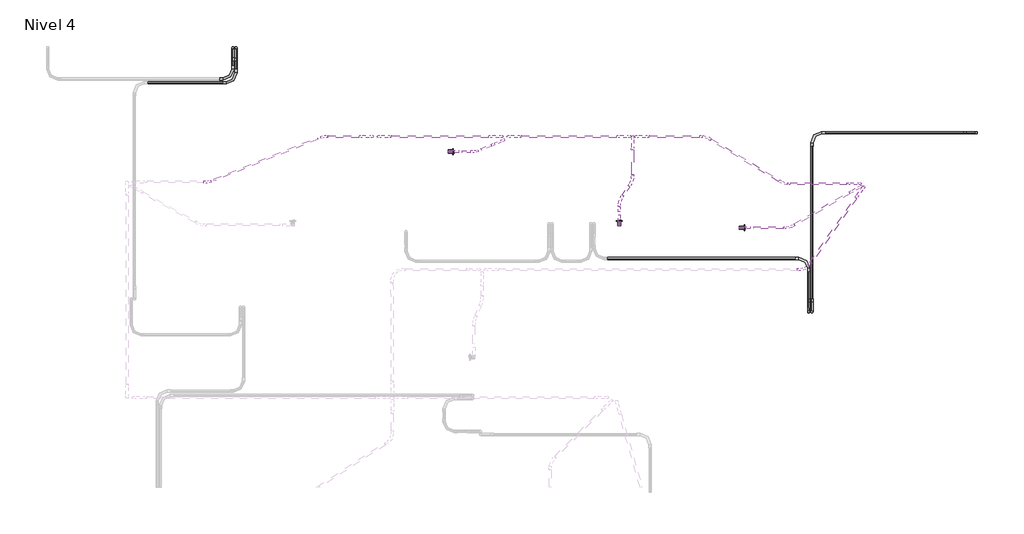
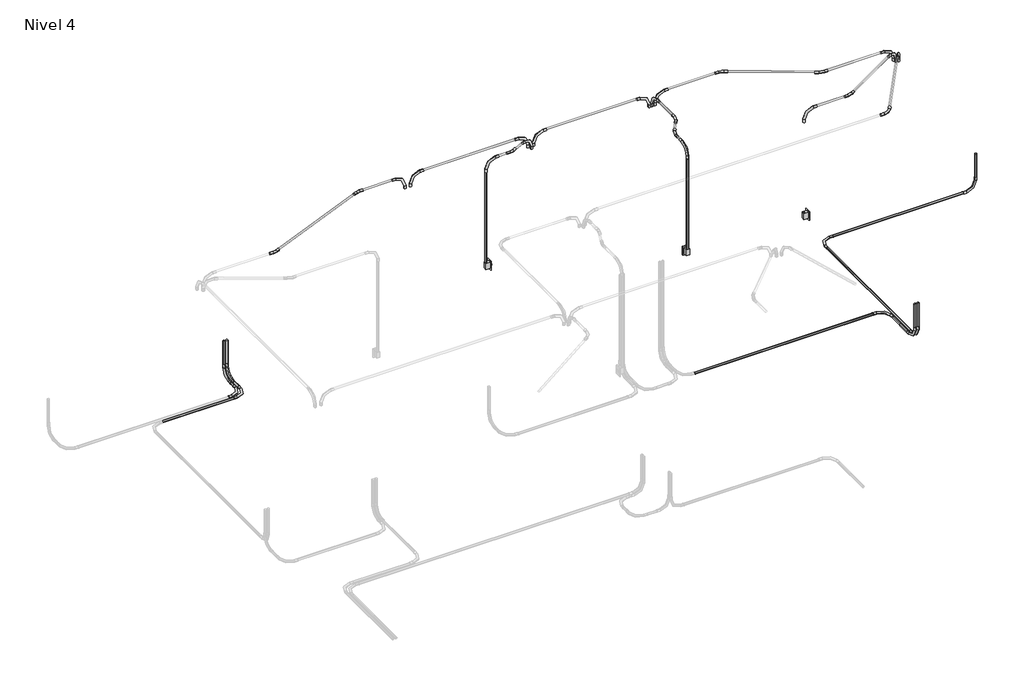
# One storey, part 9 of 9: 32 cable carrier fittings, 29 cable carrier segments, 3 switching devices.
"""IFC4 building model written with IfcOpenShell, lengths in millimetres."""

from ifc_helpers import new_model, si_unit, point, frame, frame_2d, origin, place, context, project, spatial, circle_curve, trimmed, segment, composite_curve, outline, extrude, transform, mapped, element, save
from components import m_codo_de_tubo_extremo_liso_pvc_9da73e12, m_codo_de_tubo_extremo_liso_pvc_102f0f41, m_codo_de_tubo_extremo_liso_pvc_83c0c0e9, m_codo_de_tubo_extremo_liso_pvc_1ce4db88, m_codo_de_tubo_extremo_liso_pvc_e924b1dc, m_codo_de_tubo_extremo_liso_pvc_b7793a26, m_codo_de_tubo_extremo_liso_pvc_59586aee, m_codo_de_tubo_extremo_liso_pvc_e6ab1ad8, switching_device_22fed34b

model = new_model("IFC4")

# Units and contexts
model_context = context("Model", 3, world=origin())
ifc_project = project(units=[si_unit("LENGTHUNIT", "METRE", prefix="MILLI")], contexts=[model_context])

# Site, building, storey
site = spatial("IfcSite", under=ifc_project)
building = spatial("IfcBuilding", under=site)
storey = spatial("IfcBuildingStorey", under=building, Name="Nivel 4", Elevation=8100.0)

# Cable carrier fittings
placement = place(None, origin())
m_codo_de_tubo_extremo_liso_pvc_shape = m_codo_de_tubo_extremo_liso_pvc_9da73e12(model_context)
element("IfcCableCarrierFitting", 1, ObjectType="M_Codo de tubo - Extremo liso - PVC : CODO POTENCIA", at=placement, inside=storey, context=model_context, shape_type="MappedRepresentation", body=[
    mapped(m_codo_de_tubo_extremo_liso_pvc_shape, transform((571.491666, 17544.6371118, 8030.0), x_axis=(0.0, 0.0, -1.0), y_axis=(0.0, -1.0, 0.0), z_axis=(-1.0, 0.0, 0.0))),
])
element("IfcCableCarrierFitting", 2, ObjectType="M_Codo de tubo - Extremo liso - PVC : CODO POTENCIA", at=placement, inside=storey, context=model_context, shape_type="MappedRepresentation", body=[
    mapped(m_codo_de_tubo_extremo_liso_pvc_shape, transform((607.5553057, 17544.6371118, 8030.0), x_axis=(0.0, 0.0, -1.0), y_axis=(0.0, -1.0, 0.0), z_axis=(-1.0, 0.0, 0.0))),
])
element("IfcCableCarrierFitting", 3, ObjectType="M_Codo de tubo - Extremo liso - PVC : CODO POTENCIA", at=placement, inside=storey, context=model_context, shape_type="MappedRepresentation", body=[
    mapped(m_codo_de_tubo_extremo_liso_pvc_shape, transform((9120.3628882, 16566.5645592, 8030.0), x_axis=(0.0, 0.0, -1.0), y_axis=(-1.0, 0.0, 0.0), z_axis=(0.0, 1.0, 0.0))),
])
element("IfcCableCarrierFitting", 4, ObjectType="M_Codo de tubo - Extremo liso - PVC : CODO POTENCIA", at=placement, inside=storey, context=model_context, shape_type="MappedRepresentation", body=[
    mapped(m_codo_de_tubo_extremo_liso_pvc_shape, transform((7193.2733803, 14505.3628882, 8030.0), x_axis=(0.0, 0.0, -1.0), y_axis=(0.0, 1.0, 0.0), z_axis=(1.0, 0.0, 0.0))),
])
element("IfcCableCarrierFitting", 5, ObjectType="M_Codo de tubo - Extremo liso - PVC : CODO POTENCIA", at=placement, inside=storey, context=model_context, shape_type="MappedRepresentation", body=[
    mapped(m_codo_de_tubo_extremo_liso_pvc_shape, transform((7229.33702, 16566.5645592, 8030.0), x_axis=(-1.0, 0.0, 0.0), y_axis=(0.0, -1.0, 0.0), z_axis=(0.0, 0.0, 1.0))),
])
element("IfcCableCarrierFitting", 6, ObjectType="M_Codo de tubo - Extremo liso - PVC : CODO POTENCIA", at=placement, inside=storey, context=model_context, shape_type="MappedRepresentation", body=[
    mapped(m_codo_de_tubo_extremo_liso_pvc_shape, transform((7229.33702, 14505.3628882, 8030.0), x_axis=(0.0, 0.0, -1.0), y_axis=(0.0, 1.0, 0.0), z_axis=(1.0, 0.0, 0.0))),
])
element("IfcCableCarrierFitting", 7, ObjectType="M_Codo de tubo - Extremo liso - PVC : CODO POTENCIA", at=placement, inside=storey, context=model_context, shape_type="MappedRepresentation", body=[
    mapped(m_codo_de_tubo_extremo_liso_pvc_shape, transform((7193.2733803, 15120.3628882, 8030.0), x_axis=(0.0, 1.0, 0.0), y_axis=(-1.0, 0.0, 0.0), z_axis=(0.0, 0.0, 1.0))),
])
element("IfcCableCarrierFitting", 8, ObjectType="M_Codo de tubo - Extremo liso - PVC : CODO POTENCIA", at=placement, inside=storey, context=model_context, shape_type="MappedRepresentation", body=[
    mapped(m_codo_de_tubo_extremo_liso_pvc_shape, transform((607.5553057, 17141.7513363, 8030.0), x_axis=(1.0, 0.0, 0.0), y_axis=(0.0, 1.0, 0.0), z_axis=(0.0, 0.0, 1.0))),
])
element("IfcCableCarrierFitting", 9, ObjectType="M_Codo de tubo - Extremo liso - PVC : CODO POTENCIA", at=placement, inside=storey, context=model_context, shape_type="MappedRepresentation", body=[
    mapped(m_codo_de_tubo_extremo_liso_pvc_shape, transform((571.491666, 17184.6371118, 8030.0), x_axis=(1.0, 0.0, 0.0), y_axis=(0.0, 1.0, 0.0), z_axis=(0.0, 0.0, 1.0))),
])
element("IfcCableCarrierFitting", 10, ObjectType="M_Codo de tubo - Extremo liso - PVC : CODO ILUMINACION", at=placement, inside=storey, context=model_context, shape_type="MappedRepresentation", body=[
    mapped(m_codo_de_tubo_extremo_liso_pvc_shape, transform((2241.7948591, 16522.4684793, 10650.0), x_axis=(-1.0, 0.0, 0.0), y_axis=(0.0, 0.0, -1.0), z_axis=(0.0, -1.0, 0.0))),
])
element("IfcCableCarrierFitting", 11, ObjectType="M_Codo de tubo - Extremo liso - PVC : CODO ILUMINACION", at=placement, inside=storey, context=model_context, shape_type="MappedRepresentation", body=[
    mapped(m_codo_de_tubo_extremo_liso_pvc_shape, transform((3734.0151305, 16522.4684793, 10650.0), x_axis=(-1.0, 0.0, 0.0), y_axis=(0.0, 0.0, -1.0), z_axis=(0.0, -1.0, 0.0))),
])
element("IfcCableCarrierFitting", 12, ObjectType="M_Codo de tubo - Extremo liso - PVC : CODO ILUMINACION", at=placement, inside=storey, context=model_context, shape_type="MappedRepresentation", body=[
    mapped(m_codo_de_tubo_extremo_liso_pvc_shape, transform((5204.7397254, 16522.4684793, 10650.0), x_axis=(-1.0, 0.0, 0.0), y_axis=(0.0, 0.0, -1.0), z_axis=(0.0, -1.0, 0.0))),
])
element("IfcCableCarrierFitting", 13, ObjectType="M_Codo de tubo - Extremo liso - PVC : CODO ILUMINACION", at=placement, inside=storey, context=model_context, shape_type="MappedRepresentation", body=[
    mapped(m_codo_de_tubo_extremo_liso_pvc_shape, transform((3056.7668084, 16349.9044993, 10650.0), x_axis=(0.0, 0.0, 1.0), y_axis=(1.0, 0.0, 0.0), z_axis=(0.0, 1.0, 0.0))),
])
element("IfcCableCarrierFitting", 14, ObjectType="M_Codo de tubo - Extremo liso - PVC : CODO ILUMINACION", at=placement, inside=storey, context=model_context, shape_type="MappedRepresentation", body=[
    mapped(m_codo_de_tubo_extremo_liso_pvc_shape, transform((5014.6923036, 15506.8611243, 10650.0), x_axis=(0.0, 0.0, 1.0), y_axis=(0.0, 1.0, 0.0), z_axis=(-1.0, 0.0, 0.0))),
])
element("IfcCableCarrierFitting", 15, ObjectType="M_Codo de tubo - Extremo liso - PVC : CODO ILUMINACION", at=placement, inside=storey, context=model_context, shape_type="MappedRepresentation", body=[
    mapped(m_codo_de_tubo_extremo_liso_pvc_shape, transform((6406.8611243, 15473.3236049, 10650.0), x_axis=(0.0, 0.0, 1.0), y_axis=(1.0, 0.0, 0.0), z_axis=(0.0, 1.0, 0.0))),
])
m_codo_de_tubo_extremo_liso_pvc_2_shape = m_codo_de_tubo_extremo_liso_pvc_102f0f41(model_context)
element("IfcCableCarrierFitting", 16, ObjectType="M_Codo de tubo - Extremo liso - PVC : CODO ILUMINACION", at=placement, inside=storey, context=model_context, shape_type="MappedRepresentation", body=[
    mapped(m_codo_de_tubo_extremo_liso_pvc_2_shape, transform((2173.7645981, 16522.4684793, 10650.0), x_axis=(1.0, 0.0, 0.0), y_axis=(0.0, 0.0, 1.0), z_axis=(0.0, -1.0, 0.0))),
])
element("IfcCableCarrierFitting", 17, ObjectType="M_Codo de tubo - Extremo liso - PVC : CODO ILUMINACION", at=placement, inside=storey, context=model_context, shape_type="MappedRepresentation", body=[
    mapped(m_codo_de_tubo_extremo_liso_pvc_2_shape, transform((3665.9848695, 16522.4684793, 10650.0), x_axis=(1.0, 0.0, 0.0), y_axis=(0.0, 0.0, 1.0), z_axis=(0.0, -1.0, 0.0))),
])
element("IfcCableCarrierFitting", 18, ObjectType="M_Codo de tubo - Extremo liso - PVC : CODO ILUMINACION", at=placement, inside=storey, context=model_context, shape_type="MappedRepresentation", body=[
    mapped(m_codo_de_tubo_extremo_liso_pvc_2_shape, transform((5136.7094645, 16522.4684793, 10650.0), x_axis=(1.0, 0.0, 0.0), y_axis=(0.0, 0.0, 1.0), z_axis=(0.0, -1.0, 0.0))),
])
element("IfcCableCarrierFitting", 19, ObjectType="M_Codo de tubo - Extremo liso - PVC : CODO ILUMINACION", at=placement, inside=storey, context=model_context, shape_type="MappedRepresentation", body=[
    mapped(m_codo_de_tubo_extremo_liso_pvc_2_shape, transform((7823.8636227, 15941.494093, 10650.0), x_axis=(0.5735764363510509, 0.8191520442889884, 0.0), y_axis=(0.0, 0.0, 1.0), z_axis=(0.8191520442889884, -0.5735764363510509, 0.0))),
])
element("IfcCableCarrierFitting", 20, ObjectType="M_Codo de tubo - Extremo liso - PVC : CODO ILUMINACION", at=placement, inside=storey, context=model_context, shape_type="MappedRepresentation", body=[
    mapped(m_codo_de_tubo_extremo_liso_pvc_2_shape, transform((7785.0139117, 15979.0288692, 10650.0), x_axis=(1.0, 0.0, 0.0), y_axis=(0.0, 0.0, 1.0), z_axis=(0.0, -1.0, 0.0))),
])
element("IfcCableCarrierFitting", 21, ObjectType="M_Codo de tubo - Extremo liso - PVC : CODO ILUMINACION", at=placement, inside=storey, context=model_context, shape_type="MappedRepresentation", body=[
    mapped(m_codo_de_tubo_extremo_liso_pvc_2_shape, transform((3684.8643971, 16483.326512, 10650.0), x_axis=(0.9205048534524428, 0.3907311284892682, 0.0), y_axis=(0.0, 0.0, 1.0000000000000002), z_axis=(0.3907311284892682, -0.9205048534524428, 0.0))),
])
element("IfcCableCarrierFitting", 22, ObjectType="M_Codo de tubo - Extremo liso - PVC : CODO ILUMINACION", at=placement, inside=storey, context=model_context, shape_type="MappedRepresentation", body=[
    mapped(m_codo_de_tubo_extremo_liso_pvc_2_shape, transform((5168.2792063, 16521.8599625, 10650.0), x_axis=(0.0, 1.0, 0.0), y_axis=(0.0, 0.0, 1.0), z_axis=(1.0, 0.0, 0.0))),
])
element("IfcCableCarrierFitting", 23, ObjectType="M_Codo de tubo - Extremo liso - PVC : CODO ILUMINACION", at=placement, inside=storey, context=model_context, shape_type="MappedRepresentation", body=[
    mapped(m_codo_de_tubo_extremo_liso_pvc_2_shape, transform((7797.1522648, 15952.0796933, 10650.0), x_axis=(0.8660254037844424, 0.4999999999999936, 0.0), y_axis=(0.0, 0.0, 1.0), z_axis=(0.4999999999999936, -0.8660254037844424, 0.0))),
])
m_codo_de_tubo_extremo_liso_pvc_3_shape = m_codo_de_tubo_extremo_liso_pvc_83c0c0e9(model_context)
element("IfcCableCarrierFitting", 24, ObjectType="M_Codo de tubo - Extremo liso - PVC : CODO ILUMINACION", at=placement, inside=storey, context=model_context, shape_type="MappedRepresentation", body=[
    mapped(m_codo_de_tubo_extremo_liso_pvc_3_shape, transform((297.9663114, 16001.2965089, 10650.0), x_axis=(1.0, 0.0, 0.0), y_axis=(0.0, 1.0, 0.0), z_axis=(0.0, 0.0, 1.0))),
])
element("IfcCableCarrierFitting", 25, ObjectType="M_Codo de tubo - Extremo liso - PVC : CODO ILUMINACION", at=placement, inside=storey, context=model_context, shape_type="MappedRepresentation", body=[
    mapped(m_codo_de_tubo_extremo_liso_pvc_3_shape, transform((1601.3645981, 16522.4684793, 10650.0), x_axis=(-1.0, 0.0, 0.0), y_axis=(0.0, -1.0, 0.0), z_axis=(0.0, 0.0, 1.0))),
])
m_codo_de_tubo_extremo_liso_pvc_4_shape = m_codo_de_tubo_extremo_liso_pvc_1ce4db88(model_context)
element("IfcCableCarrierFitting", 26, ObjectType="M_Codo de tubo - Extremo liso - PVC : CODO ILUMINACION", at=placement, inside=storey, context=model_context, shape_type="MappedRepresentation", body=[
    mapped(m_codo_de_tubo_extremo_liso_pvc_4_shape, transform((6008.1785187, 16522.4684793, 10650.0), x_axis=(-0.8571673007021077, 0.5150380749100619, 0.0), y_axis=(-0.5150380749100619, -0.8571673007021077, 0.0), z_axis=(0.0, 0.0, 1.0))),
])
element("IfcCableCarrierFitting", 27, ObjectType="M_Codo de tubo - Extremo liso - PVC : CODO ILUMINACION", at=placement, inside=storey, context=model_context, shape_type="MappedRepresentation", body=[
    mapped(m_codo_de_tubo_extremo_liso_pvc_4_shape, transform((6912.6139117, 15979.0288692, 10650.0), x_axis=(0.8571673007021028, -0.51503807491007, 0.0), y_axis=(0.51503807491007, 0.8571673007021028, 0.0), z_axis=(0.0, 0.0, 1.0))),
])
m_codo_de_tubo_extremo_liso_pvc_5_shape = m_codo_de_tubo_extremo_liso_pvc_e924b1dc(model_context)
element("IfcCableCarrierFitting", 28, ObjectType="M_Codo de tubo - Extremo liso - PVC : CODO ILUMINACION", at=placement, inside=storey, context=model_context, shape_type="MappedRepresentation", body=[
    mapped(m_codo_de_tubo_extremo_liso_pvc_5_shape, transform((7159.7702922, 14993.0705266, 10650.0), x_axis=(1.0, 0.0, 0.0), y_axis=(0.0, 1.0, 0.0), z_axis=(0.0, 0.0, 1.0))),
])
m_codo_de_tubo_extremo_liso_pvc_6_shape = m_codo_de_tubo_extremo_liso_pvc_b7793a26(model_context)
element("IfcCableCarrierFitting", 29, ObjectType="M_Codo de tubo - Extremo liso - PVC : CODO ILUMINACION", at=placement, inside=storey, context=model_context, shape_type="MappedRepresentation", body=[
    mapped(m_codo_de_tubo_extremo_liso_pvc_6_shape, transform((3370.5418327, 16349.9044993, 10650.0), x_axis=(1.0, 0.0, 0.0), y_axis=(0.0, 1.0, 0.0), z_axis=(0.0, 0.0, 1.0))),
])
m_codo_de_tubo_extremo_liso_pvc_7_shape = m_codo_de_tubo_extremo_liso_pvc_59586aee(model_context)
element("IfcCableCarrierFitting", 30, ObjectType="M_Codo de tubo - Extremo liso - PVC : CODO ILUMINACION", at=placement, inside=storey, context=model_context, shape_type="MappedRepresentation", body=[
    mapped(m_codo_de_tubo_extremo_liso_pvc_7_shape, transform((5168.2792063, 16009.4599625, 10650.0), x_axis=(0.5679095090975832, 0.823090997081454, 0.0), y_axis=(-0.823090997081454, 0.5679095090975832, 0.0), z_axis=(0.0, 0.0, 1.0))),
])
element("IfcCableCarrierFitting", 31, ObjectType="M_Codo de tubo - Extremo liso - PVC : CODO ILUMINACION", at=placement, inside=storey, context=model_context, shape_type="MappedRepresentation", body=[
    mapped(m_codo_de_tubo_extremo_liso_pvc_7_shape, transform((5014.6923036, 15786.8611243, 10650.0), x_axis=(-0.5679095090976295, -0.8230909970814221, 0.0), y_axis=(0.8230909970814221, -0.5679095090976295, 0.0), z_axis=(0.0, 0.0, 1.0))),
])
m_codo_de_tubo_extremo_liso_pvc_8_shape = m_codo_de_tubo_extremo_liso_pvc_e6ab1ad8(model_context)
element("IfcCableCarrierFitting", 32, ObjectType="M_Codo de tubo - Extremo liso - PVC : CODO ILUMINACION", at=placement, inside=storey, context=model_context, shape_type="MappedRepresentation", body=[
    mapped(m_codo_de_tubo_extremo_liso_pvc_8_shape, transform((6967.9223952, 15473.3236049, 10650.0), x_axis=(1.0, 0.0, 0.0), y_axis=(0.0, 1.0, 0.0), z_axis=(0.0, 0.0, 1.0))),
])

# Cable carrier segments
element("IfcCableCarrierSegment", 33, ObjectType="PVC-SEL, POTENCIA", at=placement, inside=storey, context=model_context, shape_type="SweptSolid", body=[
    extrude(outline(composite_curve([segment(trimmed(circle_curve(frame_2d((8030.0, 571.491666)), 11.71), [point((8030.0, 559.781666))], [point((8018.29, 571.491666))], False, "CARTESIAN"), True, "CONTINUOUS"), segment(trimmed(circle_curve(frame_2d((8030.0, 571.491666)), 11.71), [point((8018.29, 571.491666))], [point((8030.0, 583.201666))], False, "CARTESIAN"), True, "CONTINUOUS"), segment(trimmed(circle_curve(frame_2d((8030.0, 571.491666)), 11.71), [point((8030.0, 583.201666))], [point((8041.71, 571.491666))], False, "CARTESIAN"), True, "CONTINUOUS"), segment(trimmed(circle_curve(frame_2d((8030.0, 571.491666)), 11.71), [point((8041.71, 571.491666))], [point((8030.0, 559.781666))], False, "CARTESIAN"), True, "CONTINUOUS")], self_intersect=False)), frame((0.0, 17337.0371118, 0.0), z_axis=(0.0, 1.0, 0.0), x_axis=(0.0, 0.0, 1.0)), (0.0, 0.0, 1.0), 55.2),
])
element("IfcCableCarrierSegment", 34, ObjectType="PVC-SEL, POTENCIA", at=placement, inside=storey, context=model_context, shape_type="SweptSolid", body=[
    extrude(outline(composite_curve([segment(trimmed(circle_curve(frame_2d((571.491666, 17544.6371118)), 11.71), [point((583.201666, 17544.6371118))], [point((571.491666, 17532.9271118))], False, "CARTESIAN"), True, "CONTINUOUS"), segment(trimmed(circle_curve(frame_2d((571.491666, 17544.6371118)), 11.71), [point((571.491666, 17532.9271118))], [point((559.781666, 17544.6371118))], False, "CARTESIAN"), True, "CONTINUOUS"), segment(trimmed(circle_curve(frame_2d((571.491666, 17544.6371118)), 11.71), [point((559.781666, 17544.6371118))], [point((571.491666, 17556.3471118))], False, "CARTESIAN"), True, "CONTINUOUS"), segment(trimmed(circle_curve(frame_2d((571.491666, 17544.6371118)), 11.71), [point((571.491666, 17556.3471118))], [point((583.201666, 17544.6371118))], False, "CARTESIAN"), True, "CONTINUOUS")], self_intersect=False)), frame((0.0, 0.0, 8182.4), z_axis=(0.0, 0.0, 1.0), x_axis=(1.0, 0.0, 0.0)), (0.0, 0.0, 1.0), 297.3020537),
])
element("IfcCableCarrierSegment", 35, ObjectType="PVC-SEL, POTENCIA", at=placement, inside=storey, context=model_context, shape_type="SweptSolid", body=[
    extrude(outline(composite_curve([segment(trimmed(circle_curve(frame_2d((8030.0, 607.5553057)), 11.71), [point((8030.0, 595.8453057))], [point((8018.29, 607.5553057))], False, "CARTESIAN"), True, "CONTINUOUS"), segment(trimmed(circle_curve(frame_2d((8030.0, 607.5553057)), 11.71), [point((8018.29, 607.5553057))], [point((8030.0, 619.2653057))], False, "CARTESIAN"), True, "CONTINUOUS"), segment(trimmed(circle_curve(frame_2d((8030.0, 607.5553057)), 11.71), [point((8030.0, 619.2653057))], [point((8041.71, 607.5553057))], False, "CARTESIAN"), True, "CONTINUOUS"), segment(trimmed(circle_curve(frame_2d((8030.0, 607.5553057)), 11.71), [point((8041.71, 607.5553057))], [point((8030.0, 595.8453057))], False, "CARTESIAN"), True, "CONTINUOUS")], self_intersect=False)), frame((0.0, 17294.1513363, 0.0), z_axis=(0.0, 1.0, 0.0), x_axis=(0.0, 0.0, 1.0)), (0.0, 0.0, 1.0), 98.0857755),
])
element("IfcCableCarrierSegment", 36, ObjectType="PVC-SEL, POTENCIA", at=placement, inside=storey, context=model_context, shape_type="SweptSolid", body=[
    extrude(outline(composite_curve([segment(trimmed(circle_curve(frame_2d((607.5553057, 17544.6371118)), 11.71), [point((619.2653057, 17544.6371118))], [point((607.5553057, 17532.9271118))], False, "CARTESIAN"), True, "CONTINUOUS"), segment(trimmed(circle_curve(frame_2d((607.5553057, 17544.6371118)), 11.71), [point((607.5553057, 17532.9271118))], [point((595.8453057, 17544.6371118))], False, "CARTESIAN"), True, "CONTINUOUS"), segment(trimmed(circle_curve(frame_2d((607.5553057, 17544.6371118)), 11.71), [point((595.8453057, 17544.6371118))], [point((607.5553057, 17556.3471118))], False, "CARTESIAN"), True, "CONTINUOUS"), segment(trimmed(circle_curve(frame_2d((607.5553057, 17544.6371118)), 11.71), [point((607.5553057, 17556.3471118))], [point((619.2653057, 17544.6371118))], False, "CARTESIAN"), True, "CONTINUOUS")], self_intersect=False)), frame((0.0, 0.0, 8182.4), z_axis=(0.0, 0.0, 1.0), x_axis=(1.0, 0.0, 0.0)), (0.0, 0.0, 1.0), 297.3020537),
])
element("IfcCableCarrierSegment", 37, ObjectType="PVC-SEL, POTENCIA", at=placement, inside=storey, context=model_context, shape_type="SweptSolid", body=[
    extrude(outline(composite_curve([segment(trimmed(circle_curve(frame_2d((16566.5645592, 8030.0)), 11.71), [point((16578.2745592, 8030.0))], [point((16566.5645592, 8018.29))], False, "CARTESIAN"), True, "CONTINUOUS"), segment(trimmed(circle_curve(frame_2d((16566.5645592, 8030.0)), 11.71), [point((16566.5645592, 8018.29))], [point((16554.8545592, 8030.0))], False, "CARTESIAN"), True, "CONTINUOUS"), segment(trimmed(circle_curve(frame_2d((16566.5645592, 8030.0)), 11.71), [point((16554.8545592, 8030.0))], [point((16566.5645592, 8041.71))], False, "CARTESIAN"), True, "CONTINUOUS"), segment(trimmed(circle_curve(frame_2d((16566.5645592, 8030.0)), 11.71), [point((16566.5645592, 8041.71))], [point((16578.2745592, 8030.0))], False, "CARTESIAN"), True, "CONTINUOUS")], self_intersect=False)), frame((7381.73702, 0.0, 0.0), z_axis=(1.0, 0.0, 0.0), x_axis=(0.0, 1.0, 0.0)), (0.0, 0.0, 1.0), 1586.2258683),
])
element("IfcCableCarrierSegment", 38, ObjectType="PVC-SEL, POTENCIA", at=placement, inside=storey, context=model_context, shape_type="SweptSolid", body=[
    extrude(outline(composite_curve([segment(trimmed(circle_curve(frame_2d((9120.3628882, 16566.5645592)), 11.71), [point((9132.0728882, 16566.5645592))], [point((9120.3628882, 16554.8545592))], False, "CARTESIAN"), True, "CONTINUOUS"), segment(trimmed(circle_curve(frame_2d((9120.3628882, 16566.5645592)), 11.71), [point((9120.3628882, 16554.8545592))], [point((9108.6528882, 16566.5645592))], False, "CARTESIAN"), True, "CONTINUOUS"), segment(trimmed(circle_curve(frame_2d((9120.3628882, 16566.5645592)), 11.71), [point((9108.6528882, 16566.5645592))], [point((9120.3628882, 16578.2745592))], False, "CARTESIAN"), True, "CONTINUOUS"), segment(trimmed(circle_curve(frame_2d((9120.3628882, 16566.5645592)), 11.71), [point((9120.3628882, 16578.2745592))], [point((9132.0728882, 16566.5645592))], False, "CARTESIAN"), True, "CONTINUOUS")], self_intersect=False)), frame((0.0, 0.0, 8182.4), z_axis=(0.0, 0.0, 1.0), x_axis=(1.0, 0.0, 0.0)), (0.0, 0.0, 1.0), 297.3020537),
])
element("IfcCableCarrierSegment", 39, ObjectType="PVC-SEL, POTENCIA", at=placement, inside=storey, context=model_context, shape_type="SweptSolid", body=[
    extrude(outline(composite_curve([segment(trimmed(circle_curve(frame_2d((8030.0, 7193.2733803)), 11.71), [point((8030.0, 7204.9833803))], [point((8041.71, 7193.2733803))], False, "CARTESIAN"), True, "CONTINUOUS"), segment(trimmed(circle_curve(frame_2d((8030.0, 7193.2733803)), 11.71), [point((8041.71, 7193.2733803))], [point((8030.0, 7181.5633803))], False, "CARTESIAN"), True, "CONTINUOUS"), segment(trimmed(circle_curve(frame_2d((8030.0, 7193.2733803)), 11.71), [point((8030.0, 7181.5633803))], [point((8018.29, 7193.2733803))], False, "CARTESIAN"), True, "CONTINUOUS"), segment(trimmed(circle_curve(frame_2d((8030.0, 7193.2733803)), 11.71), [point((8018.29, 7193.2733803))], [point((8030.0, 7204.9833803))], False, "CARTESIAN"), True, "CONTINUOUS")], self_intersect=False)), frame((0.0, 14657.7628882, 0.0), z_axis=(0.0, 1.0, 0.0), x_axis=(0.0, 0.0, 1.0)), (0.0, 0.0, 1.0), 310.2),
])
element("IfcCableCarrierSegment", 40, ObjectType="PVC-SEL, POTENCIA", at=placement, inside=storey, context=model_context, shape_type="SweptSolid", body=[
    extrude(outline(composite_curve([segment(trimmed(circle_curve(frame_2d((7193.2733803, 14505.3628882)), 11.71), [point((7204.9833803, 14505.3628882))], [point((7193.2733803, 14493.6528882))], False, "CARTESIAN"), True, "CONTINUOUS"), segment(trimmed(circle_curve(frame_2d((7193.2733803, 14505.3628882)), 11.71), [point((7193.2733803, 14493.6528882))], [point((7181.5633803, 14505.3628882))], False, "CARTESIAN"), True, "CONTINUOUS"), segment(trimmed(circle_curve(frame_2d((7193.2733803, 14505.3628882)), 11.71), [point((7181.5633803, 14505.3628882))], [point((7193.2733803, 14517.0728882))], False, "CARTESIAN"), True, "CONTINUOUS"), segment(trimmed(circle_curve(frame_2d((7193.2733803, 14505.3628882)), 11.71), [point((7193.2733803, 14517.0728882))], [point((7204.9833803, 14505.3628882))], False, "CARTESIAN"), True, "CONTINUOUS")], self_intersect=False)), frame((0.0, 0.0, 8182.4), z_axis=(0.0, 0.0, 1.0), x_axis=(1.0, 0.0, 0.0)), (0.0, 0.0, 1.0), 297.3020537),
])
element("IfcCableCarrierSegment", 41, ObjectType="PVC-SEL, POTENCIA", at=placement, inside=storey, context=model_context, shape_type="SweptSolid", body=[
    extrude(outline(composite_curve([segment(trimmed(circle_curve(frame_2d((8030.0, 7229.33702)), 11.71), [point((8030.0, 7217.62702))], [point((8018.29, 7229.33702))], False, "CARTESIAN"), True, "CONTINUOUS"), segment(trimmed(circle_curve(frame_2d((8030.0, 7229.33702)), 11.71), [point((8018.29, 7229.33702))], [point((8030.0, 7241.04702))], False, "CARTESIAN"), True, "CONTINUOUS"), segment(trimmed(circle_curve(frame_2d((8030.0, 7229.33702)), 11.71), [point((8030.0, 7241.04702))], [point((8041.71, 7229.33702))], False, "CARTESIAN"), True, "CONTINUOUS"), segment(trimmed(circle_curve(frame_2d((8030.0, 7229.33702)), 11.71), [point((8041.71, 7229.33702))], [point((8030.0, 7217.62702))], False, "CARTESIAN"), True, "CONTINUOUS")], self_intersect=False)), frame((0.0, 14657.7628882, 0.0), z_axis=(0.0, 1.0, 0.0), x_axis=(0.0, 0.0, 1.0)), (0.0, 0.0, 1.0), 1756.401671),
])
element("IfcCableCarrierSegment", 42, ObjectType="PVC-SEL, POTENCIA", at=placement, inside=storey, context=model_context, shape_type="SweptSolid", body=[
    extrude(outline(composite_curve([segment(trimmed(circle_curve(frame_2d((7229.33702, 14505.3628882)), 11.71), [point((7241.04702, 14505.3628882))], [point((7229.33702, 14493.6528882))], False, "CARTESIAN"), True, "CONTINUOUS"), segment(trimmed(circle_curve(frame_2d((7229.33702, 14505.3628882)), 11.71), [point((7229.33702, 14493.6528882))], [point((7217.62702, 14505.3628882))], False, "CARTESIAN"), True, "CONTINUOUS"), segment(trimmed(circle_curve(frame_2d((7229.33702, 14505.3628882)), 11.71), [point((7217.62702, 14505.3628882))], [point((7229.33702, 14517.0728882))], False, "CARTESIAN"), True, "CONTINUOUS"), segment(trimmed(circle_curve(frame_2d((7229.33702, 14505.3628882)), 11.71), [point((7229.33702, 14517.0728882))], [point((7241.04702, 14505.3628882))], False, "CARTESIAN"), True, "CONTINUOUS")], self_intersect=False)), frame((0.0, 0.0, 8182.4), z_axis=(0.0, 0.0, 1.0), x_axis=(1.0, 0.0, 0.0)), (0.0, 0.0, 1.0), 297.3020537),
])
element("IfcCableCarrierSegment", 43, ObjectType="PVC-SEL, POTENCIA", at=placement, inside=storey, context=model_context, shape_type="SweptSolid", body=[
    extrude(outline(composite_curve([segment(trimmed(circle_curve(frame_2d((15120.3628882, 8030.0)), 11.71), [point((15132.0728882, 8030.0))], [point((15120.3628882, 8018.29))], False, "CARTESIAN"), True, "CONTINUOUS"), segment(trimmed(circle_curve(frame_2d((15120.3628882, 8030.0)), 11.71), [point((15120.3628882, 8018.29))], [point((15108.6528882, 8030.0))], False, "CARTESIAN"), True, "CONTINUOUS"), segment(trimmed(circle_curve(frame_2d((15120.3628882, 8030.0)), 11.71), [point((15108.6528882, 8030.0))], [point((15120.3628882, 8041.71))], False, "CARTESIAN"), True, "CONTINUOUS"), segment(trimmed(circle_curve(frame_2d((15120.3628882, 8030.0)), 11.71), [point((15120.3628882, 8041.71))], [point((15132.0728882, 8030.0))], False, "CARTESIAN"), True, "CONTINUOUS")], self_intersect=False)), frame((4875.3493809, 0.0, 0.0), z_axis=(1.0, 0.0, 0.0), x_axis=(0.0, 1.0, 0.0)), (0.0, 0.0, 1.0), 2165.5239995),
])
element("IfcCableCarrierSegment", 44, ObjectType="PVC-SEL, POTENCIA", at=placement, inside=storey, context=model_context, shape_type="SweptSolid", body=[
    extrude(outline(composite_curve([segment(trimmed(circle_curve(frame_2d((17141.7513363, 8030.0)), 11.71), [point((17153.4613363, 8030.0))], [point((17141.7513363, 8018.29))], False, "CARTESIAN"), True, "CONTINUOUS"), segment(trimmed(circle_curve(frame_2d((17141.7513363, 8030.0)), 11.71), [point((17141.7513363, 8018.29))], [point((17130.0413363, 8030.0))], False, "CARTESIAN"), True, "CONTINUOUS"), segment(trimmed(circle_curve(frame_2d((17141.7513363, 8030.0)), 11.71), [point((17130.0413363, 8030.0))], [point((17141.7513363, 8041.71))], False, "CARTESIAN"), True, "CONTINUOUS"), segment(trimmed(circle_curve(frame_2d((17141.7513363, 8030.0)), 11.71), [point((17141.7513363, 8041.71))], [point((17153.4613363, 8030.0))], False, "CARTESIAN"), True, "CONTINUOUS")], self_intersect=False)), frame((-409.6660348, 0.0, 0.0), z_axis=(1.0, 0.0, 0.0), x_axis=(0.0, 1.0, 0.0)), (0.0, 0.0, 1.0), 864.8213404),
])
element("IfcCableCarrierSegment", 45, ObjectType="PVC-SEL ILUMINACION", at=placement, inside=storey, context=model_context, shape_type="SweptSolid", body=[
    extrude(outline(composite_curve([segment(trimmed(circle_curve(frame_2d((16522.4684793, 10650.0)), 11.71), [point((16534.1784793, 10650.0))], [point((16522.4684793, 10638.29))], False, "CARTESIAN"), True, "CONTINUOUS"), segment(trimmed(circle_curve(frame_2d((16522.4684793, 10650.0)), 11.71), [point((16522.4684793, 10638.29))], [point((16510.7584793, 10650.0))], False, "CARTESIAN"), True, "CONTINUOUS"), segment(trimmed(circle_curve(frame_2d((16522.4684793, 10650.0)), 11.71), [point((16510.7584793, 10650.0))], [point((16522.4684793, 10661.71))], False, "CARTESIAN"), True, "CONTINUOUS"), segment(trimmed(circle_curve(frame_2d((16522.4684793, 10650.0)), 11.71), [point((16522.4684793, 10661.71))], [point((16534.1784793, 10650.0))], False, "CARTESIAN"), True, "CONTINUOUS")], self_intersect=False)), frame((1661.4694225, 0.0, 0.0), z_axis=(1.0, 0.0, 0.0), x_axis=(0.0, 1.0, 0.0)), (0.0, 0.0, 1.0), 359.8951756),
])
element("IfcCableCarrierSegment", 46, ObjectType="PVC-SEL ILUMINACION", at=placement, inside=storey, context=model_context, shape_type="SweptSolid", body=[
    extrude(outline(composite_curve([segment(trimmed(circle_curve(frame_2d((0.0, 11.71)), 11.71), [point((11.71, 11.71))], [point((0.0, 0.0))], False, "CARTESIAN"), True, "CONTINUOUS"), segment(trimmed(circle_curve(frame_2d((0.0, 11.71)), 11.71), [point((0.0, 0.0))], [point((-11.71, 11.71))], False, "CARTESIAN"), True, "CONTINUOUS"), segment(trimmed(circle_curve(frame_2d((0.0, 11.71)), 11.71), [point((-11.71, 11.71))], [point((0.0, 23.42))], False, "CARTESIAN"), True, "CONTINUOUS"), segment(trimmed(circle_curve(frame_2d((0.0, 11.71)), 11.71), [point((0.0, 23.42))], [point((11.71, 11.71))], False, "CARTESIAN"), True, "CONTINUOUS")], self_intersect=False)), frame((353.7750055, 16023.6119649, 10661.71), z_axis=(0.9285227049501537, 0.37127562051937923, 0.0), x_axis=(0.37127562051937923, -0.9285227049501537, 0.0)), (0.0, 0.0, 1.0), 1283.5237008),
])
element("IfcCableCarrierSegment", 47, ObjectType="PVC-SEL ILUMINACION", at=placement, inside=storey, context=model_context, shape_type="SweptSolid", body=[
    extrude(outline(composite_curve([segment(trimmed(circle_curve(frame_2d((0.0, 11.71)), 11.71), [point((11.7099999, 11.71))], [point((0.0, 0.0))], False, "CARTESIAN"), True, "CONTINUOUS"), segment(trimmed(circle_curve(frame_2d((0.0, 11.71)), 11.71), [point((0.0, 0.0))], [point((-11.7100001, 11.71))], False, "CARTESIAN"), True, "CONTINUOUS"), segment(trimmed(circle_curve(frame_2d((0.0, 11.71)), 11.71), [point((-11.7100001, 11.71))], [point((0.0, 23.42))], False, "CARTESIAN"), True, "CONTINUOUS"), segment(trimmed(circle_curve(frame_2d((0.0, 11.71)), 11.71), [point((0.0, 23.42))], [point((11.7099999, 11.71))], False, "CARTESIAN"), True, "CONTINUOUS")], self_intersect=False)), frame((7215.7518192, 15073.0204328, 10661.71), z_axis=(0.5735764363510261, 0.8191520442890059, 0.0), x_axis=(0.8191520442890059, -0.5735764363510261, 0.0)), (0.0, 0.0, 1.0), 907.8105753),
])
element("IfcCableCarrierSegment", 48, ObjectType="PVC-SEL ILUMINACION", at=placement, inside=storey, context=model_context, shape_type="SweptSolid", body=[
    extrude(outline(composite_curve([segment(trimmed(circle_curve(frame_2d((15979.0288692, 10650.0)), 11.71), [point((15990.7388692, 10650.0))], [point((15979.0288692, 10638.29))], False, "CARTESIAN"), True, "CONTINUOUS"), segment(trimmed(circle_curve(frame_2d((15979.0288692, 10650.0)), 11.71), [point((15979.0288692, 10638.29))], [point((15967.3188692, 10650.0))], False, "CARTESIAN"), True, "CONTINUOUS"), segment(trimmed(circle_curve(frame_2d((15979.0288692, 10650.0)), 11.71), [point((15967.3188692, 10650.0))], [point((15979.0288692, 10661.71))], False, "CARTESIAN"), True, "CONTINUOUS"), segment(trimmed(circle_curve(frame_2d((15979.0288692, 10650.0)), 11.71), [point((15979.0288692, 10661.71))], [point((15990.7388692, 10650.0))], False, "CARTESIAN"), True, "CONTINUOUS")], self_intersect=False)), frame((6982.4121071, 0.0, 0.0), z_axis=(1.0, 0.0, 0.0), x_axis=(0.0, 1.0, 0.0)), (0.0, 0.0, 1.0), 650.2018046),
])
element("IfcCableCarrierSegment", 49, ObjectType="PVC-SEL ILUMINACION", at=placement, inside=storey, context=model_context, shape_type="SweptSolid", body=[
    extrude(outline(composite_curve([segment(trimmed(circle_curve(frame_2d((0.0, -11.71)), 11.71), [point((-11.71, -11.71))], [point((0.0, 0.0))], False, "CARTESIAN"), True, "CONTINUOUS"), segment(trimmed(circle_curve(frame_2d((0.0, -11.71)), 11.71), [point((0.0, 0.0))], [point((11.71, -11.71))], False, "CARTESIAN"), True, "CONTINUOUS"), segment(trimmed(circle_curve(frame_2d((0.0, -11.71)), 11.71), [point((11.71, -11.71))], [point((0.0, -23.42))], False, "CARTESIAN"), True, "CONTINUOUS"), segment(trimmed(circle_curve(frame_2d((0.0, -11.71)), 11.71), [point((0.0, -23.42))], [point((-11.71, -11.71))], False, "CARTESIAN"), True, "CONTINUOUS")], self_intersect=False)), frame((6852.7851809, 16014.9775974, 10638.29), z_axis=(-0.8571673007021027, 0.5150380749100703, 0.0), x_axis=(0.5150380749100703, 0.8571673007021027, 0.0)), (0.0, 0.0, 1.0), 915.5481443),
])
element("IfcCableCarrierSegment", 50, ObjectType="PVC-SEL ILUMINACION", at=placement, inside=storey, context=model_context, shape_type="SweptSolid", body=[
    extrude(outline(composite_curve([segment(trimmed(circle_curve(frame_2d((16522.4684793, 10650.0)), 11.71), [point((16510.7584793, 10650.0))], [point((16522.4684793, 10661.71))], False, "CARTESIAN"), True, "CONTINUOUS"), segment(trimmed(circle_curve(frame_2d((16522.4684793, 10650.0)), 11.71), [point((16522.4684793, 10661.71))], [point((16534.1784793, 10650.0))], False, "CARTESIAN"), True, "CONTINUOUS"), segment(trimmed(circle_curve(frame_2d((16522.4684793, 10650.0)), 11.71), [point((16534.1784793, 10650.0))], [point((16522.4684793, 10638.29))], False, "CARTESIAN"), True, "CONTINUOUS"), segment(trimmed(circle_curve(frame_2d((16522.4684793, 10650.0)), 11.71), [point((16522.4684793, 10638.29))], [point((16510.7584793, 10650.0))], False, "CARTESIAN"), True, "CONTINUOUS")], self_intersect=False)), frame((5357.1397254, 0.0, 0.0), z_axis=(1.0, 0.0, 0.0), x_axis=(0.0, 1.0, 0.0)), (0.0, 0.0, 1.0), 581.2405979),
])
element("IfcCableCarrierSegment", 51, ObjectType="PVC-SEL ILUMINACION", at=placement, inside=storey, context=model_context, shape_type="SweptSolid", body=[
    extrude(outline(composite_curve([segment(trimmed(circle_curve(frame_2d((16522.4684793, 10650.0)), 11.71), [point((16534.1784793, 10650.0))], [point((16522.4684793, 10638.29))], False, "CARTESIAN"), True, "CONTINUOUS"), segment(trimmed(circle_curve(frame_2d((16522.4684793, 10650.0)), 11.71), [point((16522.4684793, 10638.29))], [point((16510.7584793, 10650.0))], False, "CARTESIAN"), True, "CONTINUOUS"), segment(trimmed(circle_curve(frame_2d((16522.4684793, 10650.0)), 11.71), [point((16510.7584793, 10650.0))], [point((16522.4684793, 10661.71))], False, "CARTESIAN"), True, "CONTINUOUS"), segment(trimmed(circle_curve(frame_2d((16522.4684793, 10650.0)), 11.71), [point((16522.4684793, 10661.71))], [point((16534.1784793, 10650.0))], False, "CARTESIAN"), True, "CONTINUOUS")], self_intersect=False)), frame((3886.4151305, 0.0, 0.0), z_axis=(1.0, 0.0, 0.0), x_axis=(0.0, 1.0, 0.0)), (0.0, 0.0, 1.0), 1097.894334),
])
element("IfcCableCarrierSegment", 52, ObjectType="PVC-SEL ILUMINACION", at=placement, inside=storey, context=model_context, shape_type="SweptSolid", body=[
    extrude(outline(composite_curve([segment(trimmed(circle_curve(frame_2d((16522.4684793, 10650.0)), 11.71), [point((16510.7584793, 10650.0))], [point((16522.4684793, 10661.71))], False, "CARTESIAN"), True, "CONTINUOUS"), segment(trimmed(circle_curve(frame_2d((16522.4684793, 10650.0)), 11.71), [point((16522.4684793, 10661.71))], [point((16534.1784793, 10650.0))], False, "CARTESIAN"), True, "CONTINUOUS"), segment(trimmed(circle_curve(frame_2d((16522.4684793, 10650.0)), 11.71), [point((16534.1784793, 10650.0))], [point((16522.4684793, 10638.29))], False, "CARTESIAN"), True, "CONTINUOUS"), segment(trimmed(circle_curve(frame_2d((16522.4684793, 10650.0)), 11.71), [point((16522.4684793, 10638.29))], [point((16510.7584793, 10650.0))], False, "CARTESIAN"), True, "CONTINUOUS")], self_intersect=False)), frame((2394.1948591, 0.0, 0.0), z_axis=(1.0, 0.0, 0.0), x_axis=(0.0, 1.0, 0.0)), (0.0, 0.0, 1.0), 1119.3900104),
])
element("IfcCableCarrierSegment", 53, ObjectType="PVC-SEL ILUMINACION", at=placement, inside=storey, context=model_context, shape_type="SweptSolid", body=[
    extrude(outline(composite_curve([segment(trimmed(circle_curve(frame_2d((0.0, -11.71)), 11.71), [point((-11.7100001, -11.71))], [point((0.0, 0.0))], False, "CARTESIAN"), True, "CONTINUOUS"), segment(trimmed(circle_curve(frame_2d((0.0, -11.71)), 11.71), [point((0.0, 0.0))], [point((11.71, -11.71))], False, "CARTESIAN"), True, "CONTINUOUS"), segment(trimmed(circle_curve(frame_2d((0.0, -11.71)), 11.71), [point((11.71, -11.71))], [point((0.0, -23.42))], False, "CARTESIAN"), True, "CONTINUOUS"), segment(trimmed(circle_curve(frame_2d((0.0, -11.71)), 11.71), [point((0.0, -23.42))], [point((-11.7100001, -11.71))], False, "CARTESIAN"), True, "CONTINUOUS")], self_intersect=False)), frame((3427.0190377, 16373.8776505, 10638.29), z_axis=(0.920504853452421, 0.39073112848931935, 0.0), x_axis=(0.39073112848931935, -0.920504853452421, 0.0)), (0.0, 0.0, 1.0), 127.7129819),
])
element("IfcCableCarrierSegment", 54, ObjectType="PVC-SEL ILUMINACION", at=placement, inside=storey, context=model_context, shape_type="SweptSolid", body=[
    extrude(outline(composite_curve([segment(trimmed(circle_curve(frame_2d((16349.9044993, 10650.0)), 11.71), [point((16361.6144993, 10650.0))], [point((16349.9044993, 10638.29))], False, "CARTESIAN"), True, "CONTINUOUS"), segment(trimmed(circle_curve(frame_2d((16349.9044993, 10650.0)), 11.71), [point((16349.9044993, 10638.29))], [point((16338.1944993, 10650.0))], False, "CARTESIAN"), True, "CONTINUOUS"), segment(trimmed(circle_curve(frame_2d((16349.9044993, 10650.0)), 11.71), [point((16338.1944993, 10650.0))], [point((16349.9044993, 10661.71))], False, "CARTESIAN"), True, "CONTINUOUS"), segment(trimmed(circle_curve(frame_2d((16349.9044993, 10650.0)), 11.71), [point((16349.9044993, 10661.71))], [point((16361.6144993, 10650.0))], False, "CARTESIAN"), True, "CONTINUOUS")], self_intersect=False)), frame((3209.1668084, 0.0, 0.0), z_axis=(1.0, 0.0, 0.0), x_axis=(0.0, 1.0, 0.0)), (0.0, 0.0, 1.0), 100.0204265),
])
element("IfcCableCarrierSegment", 55, ObjectType="PVC-SEL ILUMINACION", at=placement, inside=storey, context=model_context, shape_type="SweptSolid", body=[
    extrude(outline(composite_curve([segment(trimmed(circle_curve(frame_2d((3056.7668084, 16349.9044993)), 11.71), [point((3045.0568084, 16349.9044993))], [point((3056.7668084, 16361.6144993))], False, "CARTESIAN"), True, "CONTINUOUS"), segment(trimmed(circle_curve(frame_2d((3056.7668084, 16349.9044993)), 11.71), [point((3056.7668084, 16361.6144993))], [point((3068.4768084, 16349.9044993))], False, "CARTESIAN"), True, "CONTINUOUS"), segment(trimmed(circle_curve(frame_2d((3056.7668084, 16349.9044993)), 11.71), [point((3068.4768084, 16349.9044993))], [point((3056.7668084, 16338.1944993))], False, "CARTESIAN"), True, "CONTINUOUS"), segment(trimmed(circle_curve(frame_2d((3056.7668084, 16349.9044993)), 11.71), [point((3056.7668084, 16338.1944993))], [point((3045.0568084, 16349.9044993))], False, "CARTESIAN"), True, "CONTINUOUS")], self_intersect=False)), frame((0.0, 0.0, 9340.2227463), z_axis=(0.0, 0.0, 1.0), x_axis=(1.0, 0.0, 0.0)), (0.0, 0.0, 1.0), 1157.3772537),
])
element("IfcCableCarrierSegment", 56, ObjectType="PVC-SEL ILUMINACION", at=placement, inside=storey, context=model_context, shape_type="SweptSolid", body=[
    extrude(outline(composite_curve([segment(trimmed(circle_curve(frame_2d((10650.0, 5168.2792063)), 11.71), [point((10650.0, 5156.5692063))], [point((10638.29, 5168.2792063))], False, "CARTESIAN"), True, "CONTINUOUS"), segment(trimmed(circle_curve(frame_2d((10650.0, 5168.2792063)), 11.71), [point((10638.29, 5168.2792063))], [point((10650.0, 5179.9892063))], False, "CARTESIAN"), True, "CONTINUOUS"), segment(trimmed(circle_curve(frame_2d((10650.0, 5168.2792063)), 11.71), [point((10650.0, 5179.9892063))], [point((10661.71, 5168.2792063))], False, "CARTESIAN"), True, "CONTINUOUS"), segment(trimmed(circle_curve(frame_2d((10650.0, 5168.2792063)), 11.71), [point((10661.71, 5168.2792063))], [point((10650.0, 5156.5692063))], False, "CARTESIAN"), True, "CONTINUOUS")], self_intersect=False)), frame((0.0, 16083.1654572, 0.0), z_axis=(0.0, 1.0, 0.0), x_axis=(0.0, 0.0, 1.0)), (0.0, 0.0, 1.0), 286.2945053),
])
element("IfcCableCarrierSegment", 57, ObjectType="PVC-SEL ILUMINACION", at=placement, inside=storey, context=model_context, shape_type="SweptSolid", body=[
    extrude(outline(composite_curve([segment(trimmed(circle_curve(frame_2d((10650.0, 5014.6923036)), 11.71), [point((10650.0, 5026.4023036))], [point((10661.71, 5014.6923036))], False, "CARTESIAN"), True, "CONTINUOUS"), segment(trimmed(circle_curve(frame_2d((10650.0, 5014.6923036)), 11.71), [point((10661.71, 5014.6923036))], [point((10650.0, 5002.9823036))], False, "CARTESIAN"), True, "CONTINUOUS"), segment(trimmed(circle_curve(frame_2d((10650.0, 5014.6923036)), 11.71), [point((10650.0, 5002.9823036))], [point((10638.29, 5014.6923036))], False, "CARTESIAN"), True, "CONTINUOUS"), segment(trimmed(circle_curve(frame_2d((10650.0, 5014.6923036)), 11.71), [point((10638.29, 5014.6923036))], [point((10650.0, 5026.4023036))], False, "CARTESIAN"), True, "CONTINUOUS")], self_intersect=False)), frame((0.0, 15659.2611243, 0.0), z_axis=(0.0, 1.0, 0.0), x_axis=(0.0, 0.0, 1.0)), (0.0, 0.0, 1.0), 53.8945053),
])
element("IfcCableCarrierSegment", 58, ObjectType="PVC-SEL ILUMINACION", at=placement, inside=storey, context=model_context, shape_type="SweptSolid", body=[
    extrude(outline(composite_curve([segment(trimmed(circle_curve(frame_2d((5014.6923036, 15506.8611243)), 11.71), [point((5002.9823036, 15506.8611243))], [point((5014.6923036, 15518.5711243))], False, "CARTESIAN"), True, "CONTINUOUS"), segment(trimmed(circle_curve(frame_2d((5014.6923036, 15506.8611243)), 11.71), [point((5014.6923036, 15518.5711243))], [point((5026.4023036, 15506.8611243))], False, "CARTESIAN"), True, "CONTINUOUS"), segment(trimmed(circle_curve(frame_2d((5014.6923036, 15506.8611243)), 11.71), [point((5026.4023036, 15506.8611243))], [point((5014.6923036, 15495.1511243))], False, "CARTESIAN"), True, "CONTINUOUS"), segment(trimmed(circle_curve(frame_2d((5014.6923036, 15506.8611243)), 11.71), [point((5014.6923036, 15495.1511243))], [point((5002.9823036, 15506.8611243))], False, "CARTESIAN"), True, "CONTINUOUS")], self_intersect=False)), frame((0.0, 0.0, 9340.2227463), z_axis=(0.0, 0.0, 1.0), x_axis=(1.0, 0.0, 0.0)), (0.0, 0.0, 1.0), 1157.3772537),
])
element("IfcCableCarrierSegment", 59, ObjectType="PVC-SEL ILUMINACION", at=placement, inside=storey, context=model_context, shape_type="SweptSolid", body=[
    extrude(outline(composite_curve([segment(trimmed(circle_curve(frame_2d((0.0, -11.71)), 11.71), [point((-11.71, -11.71))], [point((0.0, 0.0))], False, "CARTESIAN"), True, "CONTINUOUS"), segment(trimmed(circle_curve(frame_2d((0.0, -11.71)), 11.71), [point((0.0, 0.0))], [point((11.71, -11.71))], False, "CARTESIAN"), True, "CONTINUOUS"), segment(trimmed(circle_curve(frame_2d((0.0, -11.71)), 11.71), [point((11.71, -11.71))], [point((0.0, -23.42))], False, "CARTESIAN"), True, "CONTINUOUS"), segment(trimmed(circle_curve(frame_2d((0.0, -11.71)), 11.71), [point((0.0, -23.42))], [point((-11.71, -11.71))], False, "CARTESIAN"), True, "CONTINUOUS")], self_intersect=False)), frame((5056.5503549, 15847.5274535, 10638.29), z_axis=(0.5679095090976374, 0.8230909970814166, 0.0), x_axis=(0.8230909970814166, -0.5679095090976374, 0.0)), (0.0, 0.0, 1.0), 123.0315727),
])
element("IfcCableCarrierSegment", 60, ObjectType="PVC-SEL ILUMINACION", at=placement, inside=storey, context=model_context, shape_type="SweptSolid", body=[
    extrude(outline(composite_curve([segment(trimmed(circle_curve(frame_2d((0.0, -11.71)), 11.71), [point((-11.71, -11.71))], [point((0.0, 0.0))], False, "CARTESIAN"), True, "CONTINUOUS"), segment(trimmed(circle_curve(frame_2d((0.0, -11.71)), 11.71), [point((0.0, 0.0))], [point((11.71, -11.71))], False, "CARTESIAN"), True, "CONTINUOUS"), segment(trimmed(circle_curve(frame_2d((0.0, -11.71)), 11.71), [point((11.71, -11.71))], [point((0.0, -23.42))], False, "CARTESIAN"), True, "CONTINUOUS"), segment(trimmed(circle_curve(frame_2d((0.0, -11.71)), 11.71), [point((0.0, -23.42))], [point((-11.71, -11.71))], False, "CARTESIAN"), True, "CONTINUOUS")], self_intersect=False)), frame((7027.4413704, 15507.6869012, 10638.29), z_axis=(0.8660254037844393, 0.499999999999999, 0.0), x_axis=(0.499999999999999, -0.8660254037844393, 0.0)), (0.0, 0.0, 1.0), 736.3855842),
])
element("IfcCableCarrierSegment", 61, ObjectType="PVC-SEL ILUMINACION", at=placement, inside=storey, context=model_context, shape_type="SweptSolid", body=[
    extrude(outline(composite_curve([segment(trimmed(circle_curve(frame_2d((15473.3236049, 10650.0)), 11.71), [point((15485.0336049, 10650.0))], [point((15473.3236049, 10638.29))], False, "CARTESIAN"), True, "CONTINUOUS"), segment(trimmed(circle_curve(frame_2d((15473.3236049, 10650.0)), 11.71), [point((15473.3236049, 10638.29))], [point((15461.6136049, 10650.0))], False, "CARTESIAN"), True, "CONTINUOUS"), segment(trimmed(circle_curve(frame_2d((15473.3236049, 10650.0)), 11.71), [point((15461.6136049, 10650.0))], [point((15473.3236049, 10661.71))], False, "CARTESIAN"), True, "CONTINUOUS"), segment(trimmed(circle_curve(frame_2d((15473.3236049, 10650.0)), 11.71), [point((15473.3236049, 10661.71))], [point((15485.0336049, 10650.0))], False, "CARTESIAN"), True, "CONTINUOUS")], self_intersect=False)), frame((6559.2611243, 0.0, 0.0), z_axis=(1.0, 0.0, 0.0), x_axis=(0.0, 1.0, 0.0)), (0.0, 0.0, 1.0), 339.9346782),
])

# Switching devices
switching_device_shape = switching_device_22fed34b(model_context)
element("IfcSwitchingDevice", 62, ObjectType="Interruptor : Tridireccional", at=placement, inside=storey, context=model_context, shape_type="MappedRepresentation", body=[
    mapped(switching_device_shape, transform((3099.905684, 16349.9543449, 9300.0), x_axis=(0.0, 1.0, 0.0), y_axis=(0.0, 0.0, 1.0), z_axis=(1.0, 0.0, 0.0))),
])
element("IfcSwitchingDevice", 63, ObjectType="Interruptor : Tridireccional", at=placement, inside=storey, context=model_context, shape_type="MappedRepresentation", body=[
    mapped(switching_device_shape, transform((5014.6424579, 15550.0, 9300.0), x_axis=(-1.0, 0.0, 0.0), y_axis=(0.0, 0.0, 1.0), z_axis=(0.0, 1.0, 0.0))),
])
element("IfcSwitchingDevice", 64, ObjectType="Interruptor : Tridireccional", at=placement, inside=storey, context=model_context, shape_type="MappedRepresentation", body=[
    mapped(switching_device_shape, transform((6450.0, 15473.3734505, 9300.0), x_axis=(0.0, 1.0, 0.0), y_axis=(0.0, 0.0, 1.0), z_axis=(1.0, 0.0, 0.0))),
])

save(model, "model.ifc")
